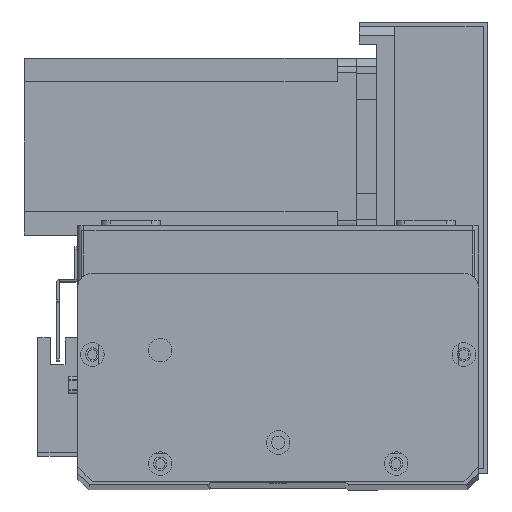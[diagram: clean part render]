
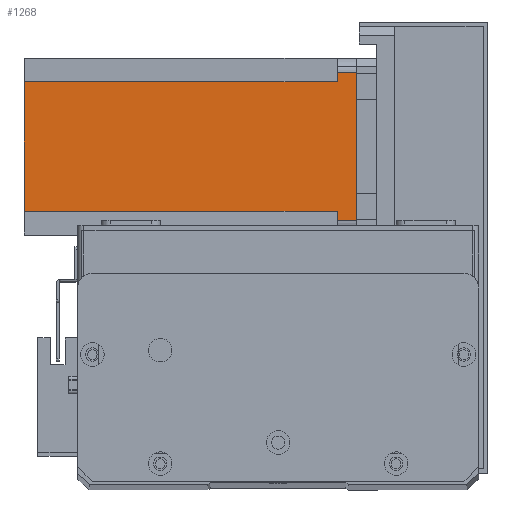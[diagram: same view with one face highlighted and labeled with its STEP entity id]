
A CAD part, top view. The second image highlights one B-rep face of the part: STEP entity #1268.
In plain terms, the highlighted planar face has unit normal (0, 0, 1) as drawn and (0, 1, 0) by its records, which use the part's own axes.
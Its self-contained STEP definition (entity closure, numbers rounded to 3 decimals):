
#881 = EDGE_CURVE ( 'NONE', #8021, #5316, #1694, .T. ) ;
#1222 = VERTEX_POINT ( 'NONE', #28248 ) ;
#1259 = LINE ( 'NONE', #21302, #27748 ) ;
#1268 = ADVANCED_FACE ( 'NONE', ( #27117 ), #7132, .T. ) ;
#1470 = EDGE_CURVE ( 'NONE', #19279, #5316, #23651, .T. ) ;
#1683 = EDGE_CURVE ( 'NONE', #22543, #19279, #23284, .T. ) ;
#1694 = LINE ( 'NONE', #19722, #7194 ) ;
#1722 = CARTESIAN_POINT ( 'NONE',  ( 0., 60., -112.5 ) ) ;
#1900 = EDGE_CURVE ( 'NONE', #22543, #1222, #28763, .T. ) ;
#2250 = EDGE_CURVE ( 'NONE', #20050, #1222, #1259, .T. ) ;
#2256 = ORIENTED_EDGE ( 'NONE', *, *, #1470, .F. ) ;
#3010 = EDGE_CURVE ( 'NONE', #20050, #14466, #24291, .T. ) ;
#3244 = EDGE_CURVE ( 'NONE', #14466, #8014, #19371, .T. ) ;
#3395 = CARTESIAN_POINT ( 'NONE',  ( 0., 60., -112.5 ) ) ;
#5230 = DIRECTION ( 'NONE',  ( -1., 0., 0. ) ) ;
#5312 = VECTOR ( 'NONE', #9116, 1000. ) ;
#5316 = VERTEX_POINT ( 'NONE', #8348 ) ;
#5463 = CARTESIAN_POINT ( 'NONE',  ( 0., 60., 0. ) ) ;
#6321 = VECTOR ( 'NONE', #19347, 1000. ) ;
#6351 = AXIS2_PLACEMENT_3D ( 'NONE', #1722, #22554, #22617 ) ;
#7117 = ORIENTED_EDGE ( 'NONE', *, *, #1683, .F. ) ;
#7132 = PLANE ( 'NONE',  #6351 ) ;
#7194 = VECTOR ( 'NONE', #19828, 1000. ) ;
#8014 = VERTEX_POINT ( 'NONE', #18688 ) ;
#8021 = VERTEX_POINT ( 'NONE', #17696 ) ;
#8348 = CARTESIAN_POINT ( 'NONE',  ( 55., 60., -6.5 ) ) ;
#9116 = DIRECTION ( 'NONE',  ( 0., 0., 1. ) ) ;
#9922 = CARTESIAN_POINT ( 'NONE',  ( 52., 60., -112.5 ) ) ;
#11110 = VECTOR ( 'NONE', #5230, 1000. ) ;
#11360 = ORIENTED_EDGE ( 'NONE', *, *, #1900, .T. ) ;
#14466 = VERTEX_POINT ( 'NONE', #23586 ) ;
#14530 = EDGE_LOOP ( 'NONE', ( #18080, #24652, #2256, #7117, #11360, #14903, #24969, #29058 ) ) ;
#14903 = ORIENTED_EDGE ( 'NONE', *, *, #2250, .F. ) ;
#16964 = CARTESIAN_POINT ( 'NONE',  ( 8., 60., -6.5 ) ) ;
#17086 = VECTOR ( 'NONE', #17766, 1000. ) ;
#17696 = CARTESIAN_POINT ( 'NONE',  ( 55., 60., 0. ) ) ;
#17706 = CARTESIAN_POINT ( 'NONE',  ( 8., 60., -6.5 ) ) ;
#17713 = LINE ( 'NONE', #5463, #23579 ) ;
#17766 = DIRECTION ( 'NONE',  ( 1., 0., 0. ) ) ;
#18080 = ORIENTED_EDGE ( 'NONE', *, *, #19046, .F. ) ;
#18371 = CARTESIAN_POINT ( 'NONE',  ( 52., 60., -112.5 ) ) ;
#18688 = CARTESIAN_POINT ( 'NONE',  ( 5., 60., 0. ) ) ;
#18697 = VECTOR ( 'NONE', #28243, 1000. ) ;
#19013 = DIRECTION ( 'NONE',  ( -1., 0., 0. ) ) ;
#19046 = EDGE_CURVE ( 'NONE', #8021, #8014, #17713, .T. ) ;
#19279 = VERTEX_POINT ( 'NONE', #19862 ) ;
#19347 = DIRECTION ( 'NONE',  ( -1., 0., 0. ) ) ;
#19371 = LINE ( 'NONE', #27956, #18697 ) ;
#19722 = CARTESIAN_POINT ( 'NONE',  ( 55., 60., -112.5 ) ) ;
#19828 = DIRECTION ( 'NONE',  ( 0., 0., -1. ) ) ;
#19862 = CARTESIAN_POINT ( 'NONE',  ( 52., 60., -6.5 ) ) ;
#20050 = VERTEX_POINT ( 'NONE', #17706 ) ;
#21302 = CARTESIAN_POINT ( 'NONE',  ( 8., 60., -112.5 ) ) ;
#22543 = VERTEX_POINT ( 'NONE', #18371 ) ;
#22554 = DIRECTION ( 'NONE',  ( 0., 1., 0. ) ) ;
#22617 = DIRECTION ( 'NONE',  ( 0., 0., 1. ) ) ;
#23284 = LINE ( 'NONE', #9922, #5312 ) ;
#23458 = DIRECTION ( 'NONE',  ( 0., 0., -1. ) ) ;
#23579 = VECTOR ( 'NONE', #19013, 1000. ) ;
#23586 = CARTESIAN_POINT ( 'NONE',  ( 5., 60., -6.5 ) ) ;
#23651 = LINE ( 'NONE', #27243, #17086 ) ;
#24291 = LINE ( 'NONE', #16964, #6321 ) ;
#24652 = ORIENTED_EDGE ( 'NONE', *, *, #881, .T. ) ;
#24969 = ORIENTED_EDGE ( 'NONE', *, *, #3010, .T. ) ;
#27117 = FACE_OUTER_BOUND ( 'NONE', #14530, .T. ) ;
#27243 = CARTESIAN_POINT ( 'NONE',  ( 52., 60., -6.5 ) ) ;
#27748 = VECTOR ( 'NONE', #23458, 1000. ) ;
#27956 = CARTESIAN_POINT ( 'NONE',  ( 5., 60., -112.5 ) ) ;
#28243 = DIRECTION ( 'NONE',  ( 0., 0., 1. ) ) ;
#28248 = CARTESIAN_POINT ( 'NONE',  ( 8., 60., -112.5 ) ) ;
#28763 = LINE ( 'NONE', #3395, #11110 ) ;
#29058 = ORIENTED_EDGE ( 'NONE', *, *, #3244, .T. ) ;
